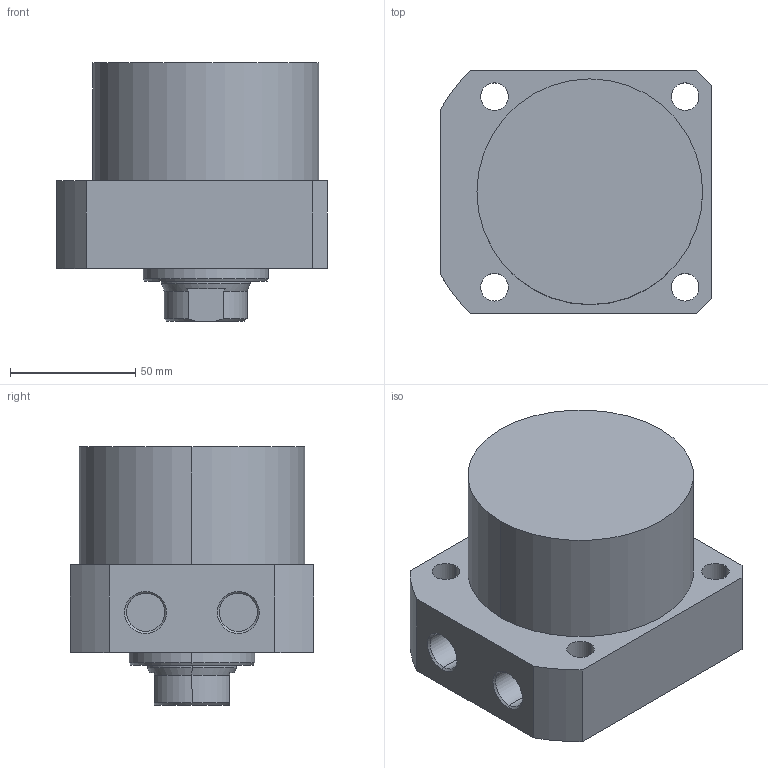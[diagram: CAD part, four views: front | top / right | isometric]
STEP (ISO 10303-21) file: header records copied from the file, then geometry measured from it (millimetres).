
FILE_DESCRIPTION (( 'STEP AP203' ), '1' );
FILE_NAME ('CLLR-090CA-025.STEP', '2019-12-19T02:13:54', ( '' ), ( '' ), 'SwSTEP 2.0', 'SolidWorks 2015', '' );
FILE_SCHEMA (( 'CONFIG_CONTROL_DESIGN' ));
Length unit declared in the file: millimetre
Products named in the file (1): CLLR-090CA-025
Bounding box: 108 x 97 x 103 mm (x, y, z)
Volume: 649264.2 mm3; surface area: 58351.5 mm2
Topology: 1 solids, 1 shells, 63 faces, 149 edges, 94 vertices
Faces by surface type: cylinder 29, plane 19, cone 15
Entity records: 1927 total; most frequent: DIRECTION 340, CARTESIAN_POINT 337, ORIENTED_EDGE 294, EDGE_CURVE 147, AXIS2_PLACEMENT_3D 137, VERTEX_POINT 94, EDGE_LOOP 79, CIRCLE 73
